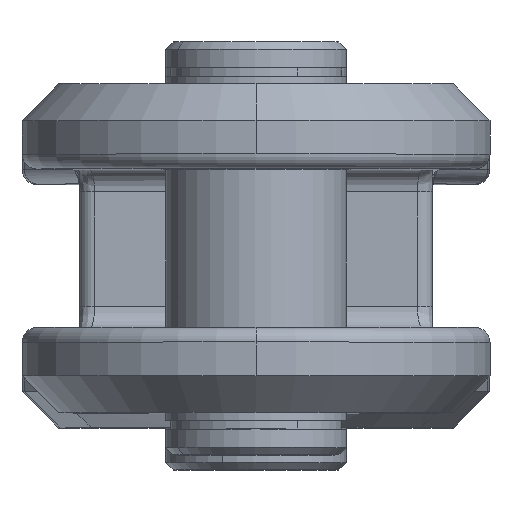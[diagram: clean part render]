
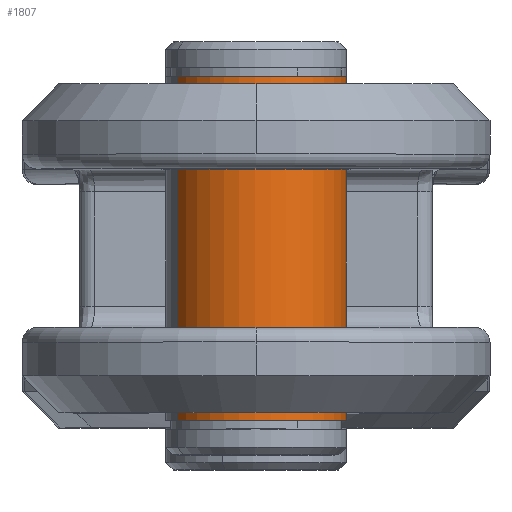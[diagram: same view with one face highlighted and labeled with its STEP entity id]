
A CAD part, top view. The second image highlights one B-rep face of the part: STEP entity #1807.
In plain terms, the highlighted cylindrical face has radius 24.5 mm (diameter 49 mm), a partial arc.
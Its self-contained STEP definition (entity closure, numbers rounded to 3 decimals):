
#297 = CARTESIAN_POINT ( 'NONE',  ( 9.4, 0., -24.5 ) ) ;
#1457 = EDGE_CURVE ( 'NONE', #5927, #8694, #3590, .T. ) ;
#1502 = ORIENTED_EDGE ( 'NONE', *, *, #3292, .T. ) ;
#1807 = ADVANCED_FACE ( 'NONE', ( #6181 ), #11154, .T. ) ;
#2460 = CARTESIAN_POINT ( 'NONE',  ( 102.6, 0., 0. ) ) ;
#2838 = LINE ( 'NONE', #9848, #14675 ) ;
#3108 = ORIENTED_EDGE ( 'NONE', *, *, #1457, .F. ) ;
#3292 = EDGE_CURVE ( 'NONE', #5965, #8694, #12384, .T. ) ;
#3539 = DIRECTION ( 'NONE',  ( 0., -1., 0. ) ) ;
#3590 = CIRCLE ( 'NONE', #11373, 24.5 ) ;
#3636 = DIRECTION ( 'NONE',  ( 0., -1., 0. ) ) ;
#5490 = CIRCLE ( 'NONE', #13366, 24.5 ) ;
#5927 = VERTEX_POINT ( 'NONE', #297 ) ;
#5965 = VERTEX_POINT ( 'NONE', #7271 ) ;
#6181 = FACE_OUTER_BOUND ( 'NONE', #10169, .T. ) ;
#7271 = CARTESIAN_POINT ( 'NONE',  ( 102.6, 0., 24.5 ) ) ;
#7292 = AXIS2_PLACEMENT_3D ( 'NONE', #10345, #14231, #11873 ) ;
#8014 = CARTESIAN_POINT ( 'NONE',  ( 9.4, 0., 0. ) ) ;
#8084 = CARTESIAN_POINT ( 'NONE',  ( 9.4, 0., 24.5 ) ) ;
#8304 = EDGE_CURVE ( 'NONE', #12765, #5965, #5490, .T. ) ;
#8694 = VERTEX_POINT ( 'NONE', #8084 ) ;
#8772 = DIRECTION ( 'NONE',  ( -1., 0., 0. ) ) ;
#9010 = VECTOR ( 'NONE', #9734, 1000. ) ;
#9138 = CARTESIAN_POINT ( 'NONE',  ( 102.6, 0., -24.5 ) ) ;
#9734 = DIRECTION ( 'NONE',  ( -1., 0., 0. ) ) ;
#9848 = CARTESIAN_POINT ( 'NONE',  ( 0., 0., -24.5 ) ) ;
#10169 = EDGE_LOOP ( 'NONE', ( #12043, #11812, #1502, #3108 ) ) ;
#10345 = CARTESIAN_POINT ( 'NONE',  ( 0., 0., 0. ) ) ;
#10487 = DIRECTION ( 'NONE',  ( -1., 0., 0. ) ) ;
#10825 = CARTESIAN_POINT ( 'NONE',  ( 0., 0., 24.5 ) ) ;
#11087 = EDGE_CURVE ( 'NONE', #12765, #5927, #2838, .T. ) ;
#11154 = CYLINDRICAL_SURFACE ( 'NONE', #7292, 24.5 ) ;
#11373 = AXIS2_PLACEMENT_3D ( 'NONE', #8014, #11704, #3539 ) ;
#11704 = DIRECTION ( 'NONE',  ( -1., 0., 0. ) ) ;
#11812 = ORIENTED_EDGE ( 'NONE', *, *, #8304, .T. ) ;
#11873 = DIRECTION ( 'NONE',  ( 0., 0., 1. ) ) ;
#12043 = ORIENTED_EDGE ( 'NONE', *, *, #11087, .F. ) ;
#12384 = LINE ( 'NONE', #10825, #9010 ) ;
#12765 = VERTEX_POINT ( 'NONE', #9138 ) ;
#13366 = AXIS2_PLACEMENT_3D ( 'NONE', #2460, #10487, #3636 ) ;
#14231 = DIRECTION ( 'NONE',  ( -1., 0., 0. ) ) ;
#14675 = VECTOR ( 'NONE', #8772, 1000. ) ;
